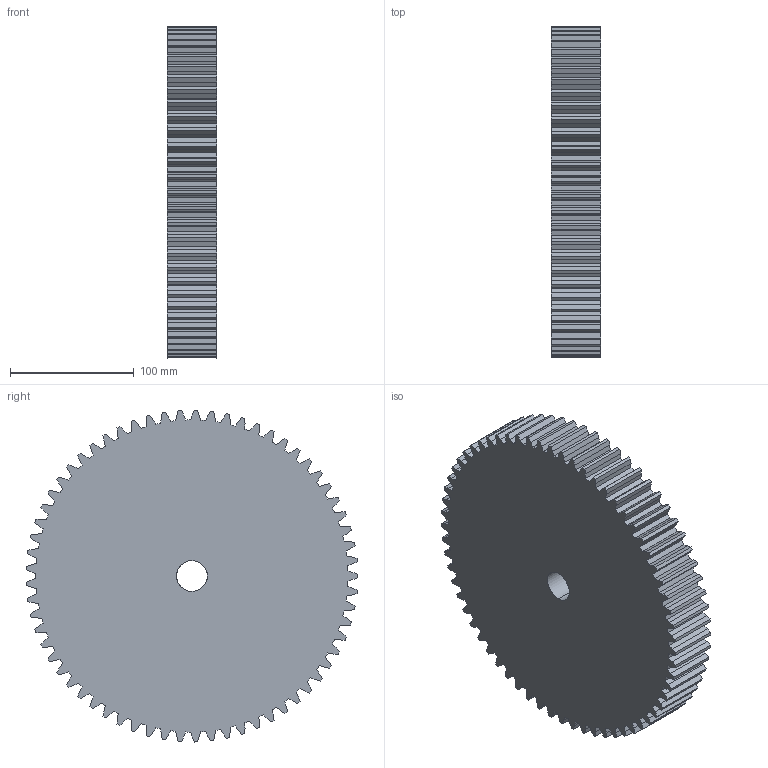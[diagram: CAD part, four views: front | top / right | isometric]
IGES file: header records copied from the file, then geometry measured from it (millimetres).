
Start section: SolidWorks IGES file using analytic representation for surfaces
Global section: file name: C:\Users\Honza\Desktop\Matis (Hotove)\Èelní ozubená kola\MODUL 4\CM 31065.IGS; native system: SolidWorks 2010; preprocessor: SolidWorks 2010; author: Honza; date: 130923.121502; units: millimetre
Bounding box: 40 x 267.89 x 267.97 mm (x, y, z)
Surface area: 169376.7 mm2 (no closed solid volume)
Topology: 0 solids, 0 shells, 394 faces, 2487 edges, 2487 vertices
Faces by surface type: bspline 262, revolution 132
